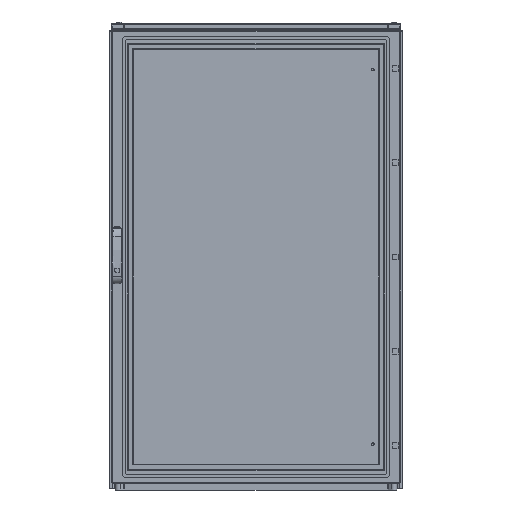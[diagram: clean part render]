
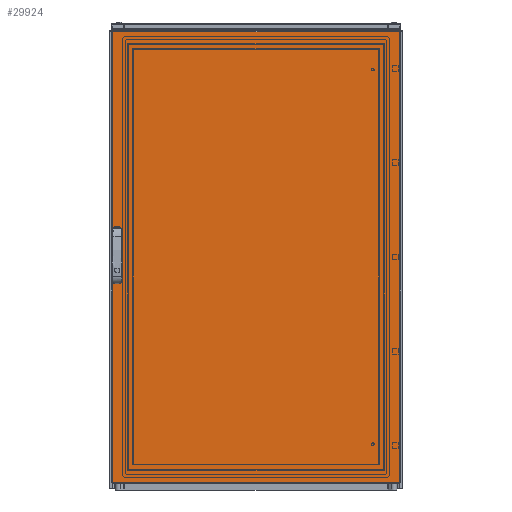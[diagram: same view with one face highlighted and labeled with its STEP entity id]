
A CAD part, front view. The second image highlights one B-rep face of the part: STEP entity #29924.
In plain terms, the highlighted planar face has unit normal (0, -1, 0).
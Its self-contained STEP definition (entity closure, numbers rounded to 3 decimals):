
#1868=CIRCLE('',#32539,9.5);
#1869=CIRCLE('',#32540,9.5);
#1870=CIRCLE('',#32541,9.5);
#1871=CIRCLE('',#32542,9.5);
#7646=ORIENTED_EDGE('',*,*,#13562,.T.);
#7647=ORIENTED_EDGE('',*,*,#13563,.T.);
#7648=ORIENTED_EDGE('',*,*,#13564,.T.);
#7649=ORIENTED_EDGE('',*,*,#13565,.T.);
#7650=ORIENTED_EDGE('',*,*,#13566,.T.);
#7651=ORIENTED_EDGE('',*,*,#13567,.T.);
#7652=ORIENTED_EDGE('',*,*,#13568,.T.);
#7653=ORIENTED_EDGE('',*,*,#13569,.T.);
#7654=ORIENTED_EDGE('',*,*,#13570,.T.);
#7655=ORIENTED_EDGE('',*,*,#13571,.T.);
#7656=ORIENTED_EDGE('',*,*,#13572,.T.);
#7657=ORIENTED_EDGE('',*,*,#13573,.T.);
#13562=EDGE_CURVE('',#16983,#16984,#19811,.T.);
#13563=EDGE_CURVE('',#16984,#16985,#19812,.F.);
#13564=EDGE_CURVE('',#16985,#16986,#19813,.F.);
#13565=EDGE_CURVE('',#16986,#16983,#19814,.T.);
#13566=EDGE_CURVE('',#16987,#16988,#1868,.T.);
#13567=EDGE_CURVE('',#16988,#16989,#19815,.T.);
#13568=EDGE_CURVE('',#16989,#16990,#1869,.T.);
#13569=EDGE_CURVE('',#16990,#16987,#19816,.T.);
#13570=EDGE_CURVE('',#16991,#16992,#1870,.T.);
#13571=EDGE_CURVE('',#16992,#16993,#19817,.T.);
#13572=EDGE_CURVE('',#16993,#16994,#1871,.T.);
#13573=EDGE_CURVE('',#16994,#16991,#19818,.T.);
#16983=VERTEX_POINT('',#48406);
#16984=VERTEX_POINT('',#48407);
#16985=VERTEX_POINT('',#48409);
#16986=VERTEX_POINT('',#48411);
#16987=VERTEX_POINT('',#48414);
#16988=VERTEX_POINT('',#48415);
#16989=VERTEX_POINT('',#48417);
#16990=VERTEX_POINT('',#48419);
#16991=VERTEX_POINT('',#48422);
#16992=VERTEX_POINT('',#48423);
#16993=VERTEX_POINT('',#48425);
#16994=VERTEX_POINT('',#48427);
#19811=LINE('',#48405,#22376);
#19812=LINE('',#48408,#22377);
#19813=LINE('',#48410,#22378);
#19814=LINE('',#48412,#22379);
#19815=LINE('',#48416,#22380);
#19816=LINE('',#48420,#22381);
#19817=LINE('',#48424,#22382);
#19818=LINE('',#48428,#22383);
#22376=VECTOR('',#39290,1000.);
#22377=VECTOR('',#39291,1000.);
#22378=VECTOR('',#39292,1000.);
#22379=VECTOR('',#39293,1000.);
#22380=VECTOR('',#39296,1000.);
#22381=VECTOR('',#39299,1000.);
#22382=VECTOR('',#39302,1000.);
#22383=VECTOR('',#39305,1000.);
#24552=EDGE_LOOP('',(#7646,#7647,#7648,#7649));
#24553=EDGE_LOOP('',(#7650,#7651,#7652,#7653));
#24554=EDGE_LOOP('',(#7654,#7655,#7656,#7657));
#26988=FACE_BOUND('',#24552,.T.);
#26989=FACE_BOUND('',#24553,.T.);
#26990=FACE_BOUND('',#24554,.T.);
#28689=PLANE('',#32538);
#29924=ADVANCED_FACE('',(#26988,#26989,#26990),#28689,.F.);
#32538=AXIS2_PLACEMENT_3D('',#48404,#39288,#39289);
#32539=AXIS2_PLACEMENT_3D('',#48413,#39294,#39295);
#32540=AXIS2_PLACEMENT_3D('',#48418,#39297,#39298);
#32541=AXIS2_PLACEMENT_3D('',#48421,#39300,#39301);
#32542=AXIS2_PLACEMENT_3D('',#48426,#39303,#39304);
#39288=DIRECTION('',(0.,1.,0.));
#39289=DIRECTION('',(0.,0.,1.));
#39290=DIRECTION('',(1.,0.,0.));
#39291=DIRECTION('',(0.,0.,-1.));
#39292=DIRECTION('',(1.,0.,0.));
#39293=DIRECTION('',(0.,0.,-1.));
#39294=DIRECTION('',(0.,1.,0.));
#39295=DIRECTION('',(1.,0.,0.));
#39296=DIRECTION('',(0.,0.,1.));
#39297=DIRECTION('',(0.,1.,0.));
#39298=DIRECTION('',(1.,0.,0.));
#39299=DIRECTION('',(0.,0.,-1.));
#39300=DIRECTION('',(0.,1.,0.));
#39301=DIRECTION('',(1.,0.,0.));
#39302=DIRECTION('',(0.,0.,1.));
#39303=DIRECTION('',(0.,1.,0.));
#39304=DIRECTION('',(1.,0.,0.));
#39305=DIRECTION('',(0.,0.,-1.));
#48404=CARTESIAN_POINT('',(-497.5,-19.,780.));
#48405=CARTESIAN_POINT('',(-497.5,-19.,-777.));
#48406=CARTESIAN_POINT('',(-494.5,-19.,-777.));
#48407=CARTESIAN_POINT('',(494.5,-19.,-777.));
#48408=CARTESIAN_POINT('',(494.5,-19.,780.));
#48409=CARTESIAN_POINT('',(494.5,-19.,777.));
#48410=CARTESIAN_POINT('',(-497.5,-19.,777.));
#48411=CARTESIAN_POINT('',(-494.5,-19.,777.));
#48412=CARTESIAN_POINT('',(-494.5,-19.,780.));
#48413=CARTESIAN_POINT('',(-478.3,-19.,32.25));
#48414=CARTESIAN_POINT('',(-468.8,-19.,32.25));
#48415=CARTESIAN_POINT('',(-487.8,-19.,32.25));
#48416=CARTESIAN_POINT('',(-487.8,-19.,32.25));
#48417=CARTESIAN_POINT('',(-487.8,-19.,80.25));
#48418=CARTESIAN_POINT('',(-478.3,-19.,80.25));
#48419=CARTESIAN_POINT('',(-468.8,-19.,80.25));
#48420=CARTESIAN_POINT('',(-468.8,-19.,80.25));
#48421=CARTESIAN_POINT('',(-478.3,-19.,-80.25));
#48422=CARTESIAN_POINT('',(-468.8,-19.,-80.25));
#48423=CARTESIAN_POINT('',(-487.8,-19.,-80.25));
#48424=CARTESIAN_POINT('',(-487.8,-19.,-80.25));
#48425=CARTESIAN_POINT('',(-487.8,-19.,-32.25));
#48426=CARTESIAN_POINT('',(-478.3,-19.,-32.25));
#48427=CARTESIAN_POINT('',(-468.8,-19.,-32.25));
#48428=CARTESIAN_POINT('',(-468.8,-19.,-32.25));
